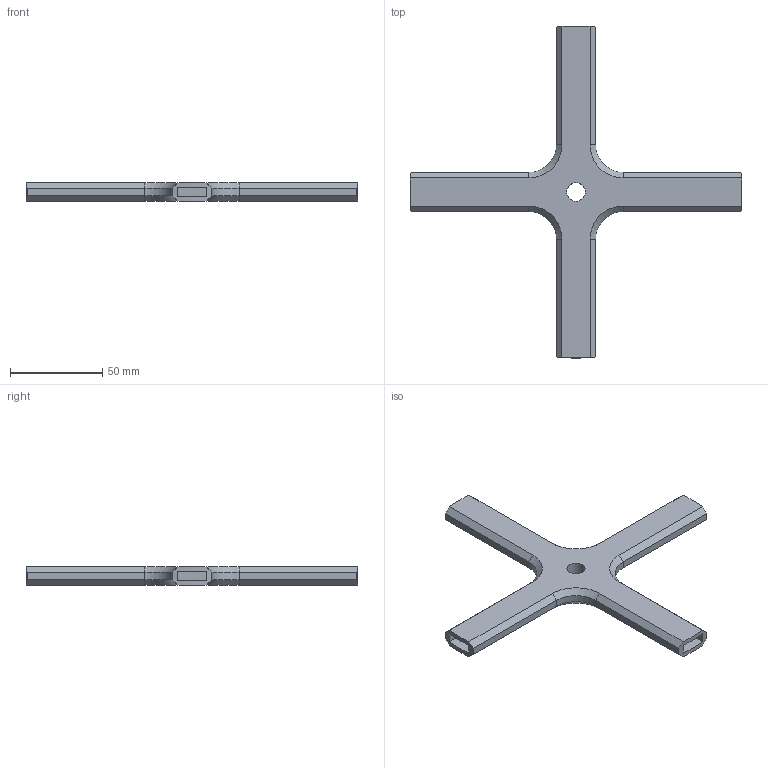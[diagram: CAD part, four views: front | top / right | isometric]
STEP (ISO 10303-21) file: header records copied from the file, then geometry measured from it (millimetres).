
FILE_DESCRIPTION(/* description */ (''),/* implementation_level */ '2;1');
FILE_NAME(/* name */ 'C:/Users/Smith/Documents/Amish Style Yarn Switf/Arm Receiver.step',/* time_stamp */ '2020-05-06T18:43:36-03:00',/* author */ (''),/* organization */ (''),/* preprocessor_version */ 'ST-DEVELOPER v18.1',/* originating_system */ 'Autodesk Translation Framework v9.2.0.1227',/* authorisation */ '');
FILE_SCHEMA (('AUTOMOTIVE_DESIGN { 1 0 10303 214 3 1 1 }'));
Length unit declared in the file: millimetre
Products named in the file (1): Arm Receiver
Bounding box: 179.93 x 179.93 x 10 mm (x, y, z)
Volume: 56381.9 mm3; surface area: 25249.7 mm2
Topology: 1 solids, 1 shells, 63 faces, 155 edges, 98 vertices
Faces by surface type: plane 46, cylinder 9, cone 8
Full cylindrical faces by diameter (mm): 10 x1
Entity records: 1888 total; most frequent: DIRECTION 333, CARTESIAN_POINT 317, ORIENTED_EDGE 310, EDGE_CURVE 155, AXIS2_PLACEMENT_3D 114, LINE 105, VECTOR 105, VERTEX_POINT 98
